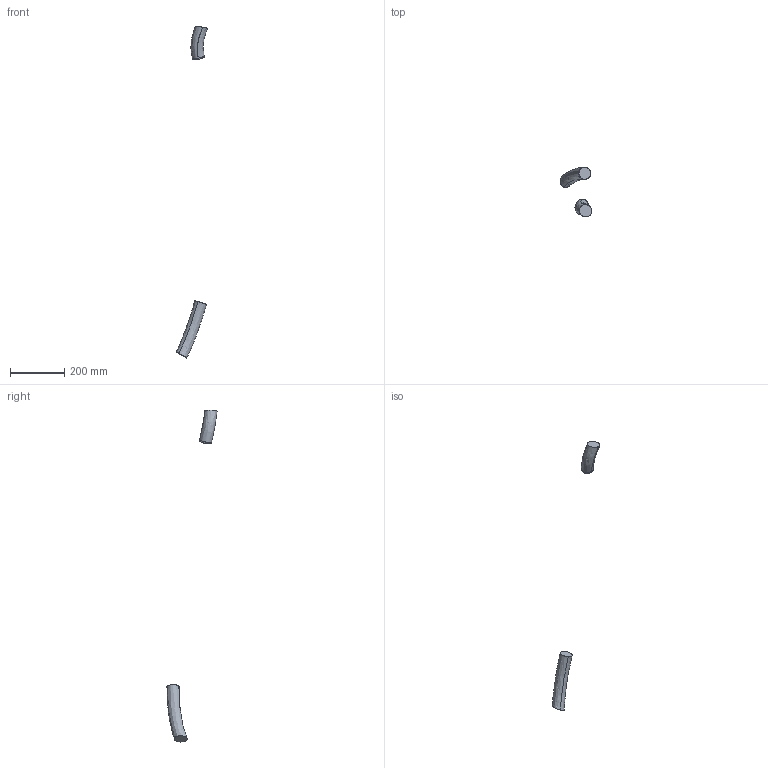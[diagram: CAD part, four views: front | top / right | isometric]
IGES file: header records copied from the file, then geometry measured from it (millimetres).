
Start section: SolidWorks IGES file using analytic representation for surfaces
Global section: file name: C:\Data\SAP_DOC\IRB6740_lightweight\6740\IRB6740_240kg-320_OC_01_SW_J\IRB6740_240kg-320_OC_01_IGES_J\IRB6740_240kg-320_OC_00_LINK02m_CABLE.igs; native system: SolidWorks 2024; preprocessor: SolidWorks 2024; author: SEJAOLS6; date: 260513.070312; units: millimetre
Bounding box: 115.67 x 184.29 x 1219.11 mm (x, y, z)
Surface area: 52591.1 mm2 (no closed solid volume)
Topology: 0 solids, 0 shells, 10 faces, 370 edges, 370 vertices
Faces by surface type: bspline 8, revolution 2
